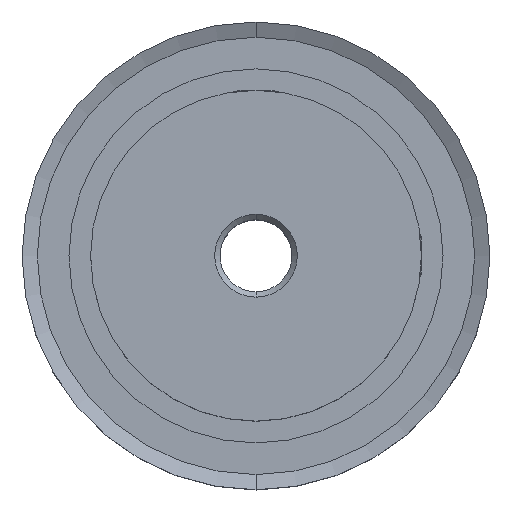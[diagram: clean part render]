
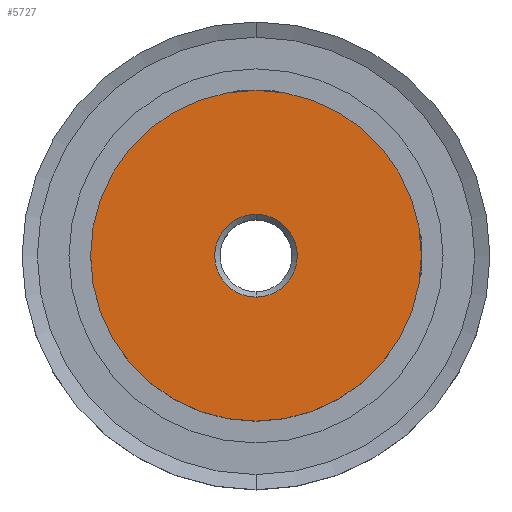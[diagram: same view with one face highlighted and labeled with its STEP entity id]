
A CAD part, top view. The second image highlights one B-rep face of the part: STEP entity #5727.
In plain terms, the highlighted planar face has unit normal (0, 0, 1).
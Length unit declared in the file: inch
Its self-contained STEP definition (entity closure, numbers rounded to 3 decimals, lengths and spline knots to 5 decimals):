
#120=CARTESIAN_POINT('',(0.,0.,0.3125));
#121=DIRECTION('',(0.,0.,1.));
#122=DIRECTION('',(0.,1.,0.));
#123=AXIS2_PLACEMENT_3D('',#120,#121,#122);
#125=CARTESIAN_POINT('',(0.,0.,0.3125));
#126=DIRECTION('',(0.,0.,-1.));
#127=DIRECTION('',(0.,1.,0.));
#128=AXIS2_PLACEMENT_3D('',#125,#126,#127);
#135=CARTESIAN_POINT('',(0.,0.,0.3125));
#136=DIRECTION('',(0.,0.,-1.));
#137=DIRECTION('',(0.,1.,0.));
#138=AXIS2_PLACEMENT_3D('',#135,#136,#137);
#4243=CARTESIAN_POINT('',(0.,0.,0.3125));
#4244=DIRECTION('',(0.,0.,1.));
#4245=DIRECTION('',(0.,1.,0.));
#4246=AXIS2_PLACEMENT_3D('',#4243,#4244,#4245);
#4558=CARTESIAN_POINT('',(0.,0.575,0.3125));
#4559=CARTESIAN_POINT('',(0.,-0.575,0.3125));
#4560=VERTEX_POINT('',#4558);
#4561=VERTEX_POINT('',#4559);
#4978=CARTESIAN_POINT('',(0.,0.14375,0.3125));
#4979=CARTESIAN_POINT('',(0.,-0.14375,0.3125));
#4980=VERTEX_POINT('',#4978);
#4981=VERTEX_POINT('',#4979);
#5710=CARTESIAN_POINT('',(0.,0.,0.3125));
#5711=DIRECTION('',(0.,0.,-1.));
#5712=DIRECTION('',(0.,-1.,0.));
#5713=AXIS2_PLACEMENT_3D('',#5710,#5711,#5712);
#5714=PLANE('',#5713);
#5716=ORIENTED_EDGE('',*,*,#5715,.F.);
#5718=ORIENTED_EDGE('',*,*,#5717,.T.);
#5719=EDGE_LOOP('',(#5716,#5718));
#5720=FACE_OUTER_BOUND('',#5719,.F.);
#5722=ORIENTED_EDGE('',*,*,#5721,.F.);
#5724=ORIENTED_EDGE('',*,*,#5723,.T.);
#5725=EDGE_LOOP('',(#5722,#5724));
#5726=FACE_BOUND('',#5725,.F.);
#124=CIRCLE('',#123,0.575);
#129=CIRCLE('',#128,0.575);
#139=CIRCLE('',#138,0.14375);
#4247=CIRCLE('',#4246,0.14375);
#5715=EDGE_CURVE('',#4560,#4561,#124,.T.);
#5717=EDGE_CURVE('',#4560,#4561,#129,.T.);
#5721=EDGE_CURVE('',#4980,#4981,#139,.T.);
#5723=EDGE_CURVE('',#4980,#4981,#4247,.T.);
#5727=ADVANCED_FACE('',(#5720,#5726),#5714,.F.);
